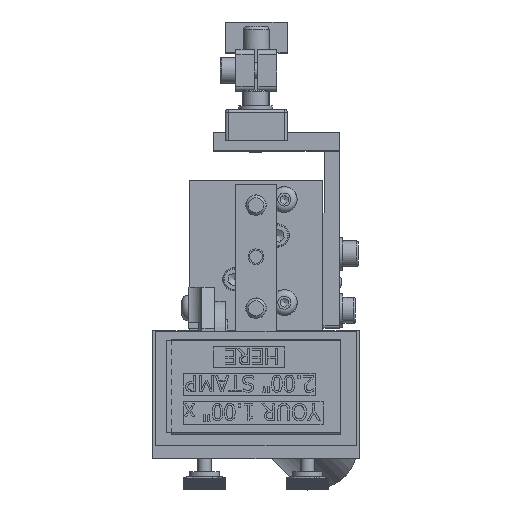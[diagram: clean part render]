
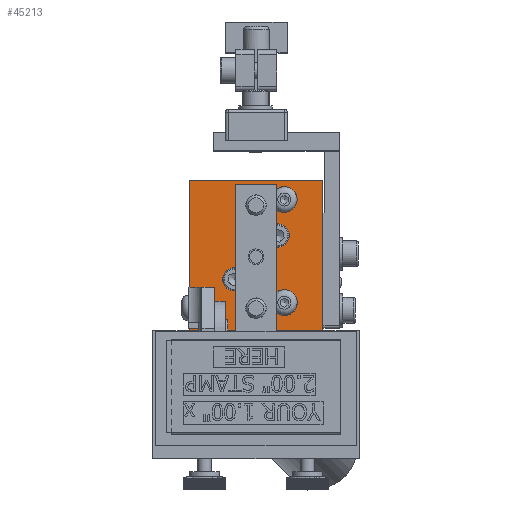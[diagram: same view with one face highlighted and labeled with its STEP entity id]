
A CAD part, top view. The second image highlights one B-rep face of the part: STEP entity #45213.
In plain terms, the highlighted planar face has unit normal (0, 0, 1).
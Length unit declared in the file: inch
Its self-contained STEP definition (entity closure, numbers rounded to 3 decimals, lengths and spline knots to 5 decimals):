
#44794=CARTESIAN_POINT('',(-0.05956,1.53255,1.5));
#44795=VERTEX_POINT('',#44794);
#44796=CARTESIAN_POINT('',(-0.24168,1.27969,1.5));
#44797=VERTEX_POINT('',#44796);
#44798=CARTESIAN_POINT('',(-0.14442,1.40165,1.5));
#44799=DIRECTION('',(0.,0.,-1.0));
#44800=DIRECTION('',(0.544,0.839,0.));
#44801=AXIS2_PLACEMENT_3D('',#44798,#44799,#44800);
#44802=CIRCLE('',#44801,0.156);
#44803=EDGE_CURVE('',#44795,#44797,#44802,.T.);
#44805=CARTESIAN_POINT('',(-0.2841,1.47112,1.5));
#44806=VERTEX_POINT('',#44805);
#44807=CARTESIAN_POINT('',(-0.14442,1.40165,1.5));
#44808=DIRECTION('',(0.,0.,-1.0));
#44809=DIRECTION('',(0.544,0.839,0.));
#44810=AXIS2_PLACEMENT_3D('',#44807,#44808,#44809);
#44811=CIRCLE('',#44810,0.156);
#44812=EDGE_CURVE('',#44806,#44795,#44811,.T.);
#45027=CARTESIAN_POINT('',(-0.48742,1.06209,1.5));
#45028=DIRECTION('',(0.0,0.0,1.0));
#45029=DIRECTION('',(1.0,0.0,0.0));
#45030=AXIS2_PLACEMENT_3D('',#45027,#45028,#45029);
#45031=PLANE('',#45030);
#45032=CARTESIAN_POINT('',(-0.98842,1.16265,1.5));
#45033=VERTEX_POINT('',#45032);
#45034=CARTESIAN_POINT('',(-1.17542,1.16265,1.5));
#45035=VERTEX_POINT('',#45034);
#45036=CARTESIAN_POINT('',(-0.98842,1.16265,1.5));
#45037=DIRECTION('',(-1.0,0.0,0.0));
#45038=VECTOR('',#45037,0.187);
#45039=LINE('',#45036,#45038);
#45040=EDGE_CURVE('',#45033,#45035,#45039,.T.);
#45041=ORIENTED_EDGE('',*,*,#45040,.T.);
#45042=CARTESIAN_POINT('',(-1.17542,1.08765,1.5));
#45043=VERTEX_POINT('',#45042);
#45044=CARTESIAN_POINT('',(-1.17542,1.16265,1.5));
#45045=DIRECTION('',(0.0,-1.0,0.0));
#45046=VECTOR('',#45045,0.075);
#45047=LINE('',#45044,#45046);
#45048=EDGE_CURVE('',#45035,#45043,#45047,.T.);
#45049=ORIENTED_EDGE('',*,*,#45048,.T.);
#45050=CARTESIAN_POINT('',(-1.29942,1.08765,1.5));
#45051=VERTEX_POINT('',#45050);
#45052=CARTESIAN_POINT('',(-1.17542,1.08765,1.5));
#45053=DIRECTION('',(-1.0,0.0,0.0));
#45054=VECTOR('',#45053,0.124);
#45055=LINE('',#45052,#45054);
#45056=EDGE_CURVE('',#45043,#45051,#45055,.T.);
#45057=ORIENTED_EDGE('',*,*,#45056,.T.);
#45058=CARTESIAN_POINT('',(-1.29942,1.06065,1.5));
#45059=VERTEX_POINT('',#45058);
#45060=CARTESIAN_POINT('',(-1.29942,1.06065,1.5));
#45061=DIRECTION('',(0.0,1.0,0.0));
#45062=VECTOR('',#45061,0.027);
#45063=LINE('',#45060,#45062);
#45064=EDGE_CURVE('',#45059,#45051,#45063,.T.);
#45065=ORIENTED_EDGE('',*,*,#45064,.F.);
#45066=CARTESIAN_POINT('',(0.32458,1.06065,1.5));
#45067=VERTEX_POINT('',#45066);
#45068=CARTESIAN_POINT('',(-1.29942,1.06065,1.5));
#45069=DIRECTION('',(1.0,0.0,0.0));
#45070=VECTOR('',#45069,1.624);
#45071=LINE('',#45068,#45070);
#45072=EDGE_CURVE('',#45059,#45067,#45071,.T.);
#45073=ORIENTED_EDGE('',*,*,#45072,.T.);
#45074=CARTESIAN_POINT('',(0.32458,2.88565,1.5));
#45075=VERTEX_POINT('',#45074);
#45076=CARTESIAN_POINT('',(0.32458,2.88565,1.5));
#45077=DIRECTION('',(0.0,-1.0,0.0));
#45078=VECTOR('',#45077,1.825);
#45079=LINE('',#45076,#45078);
#45080=EDGE_CURVE('',#45075,#45067,#45079,.T.);
#45081=ORIENTED_EDGE('',*,*,#45080,.F.);
#45082=CARTESIAN_POINT('',(-1.29942,2.88565,1.5));
#45083=VERTEX_POINT('',#45082);
#45084=CARTESIAN_POINT('',(-1.29942,2.88565,1.5));
#45085=DIRECTION('',(1.0,0.0,0.0));
#45086=VECTOR('',#45085,1.624);
#45087=LINE('',#45084,#45086);
#45088=EDGE_CURVE('',#45083,#45075,#45087,.T.);
#45089=ORIENTED_EDGE('',*,*,#45088,.F.);
#45090=CARTESIAN_POINT('',(-1.29942,1.58765,1.5));
#45091=VERTEX_POINT('',#45090);
#45092=CARTESIAN_POINT('',(-1.29942,1.58765,1.5));
#45093=DIRECTION('',(0.0,1.0,0.0));
#45094=VECTOR('',#45093,1.298);
#45095=LINE('',#45092,#45094);
#45096=EDGE_CURVE('',#45091,#45083,#45095,.T.);
#45097=ORIENTED_EDGE('',*,*,#45096,.F.);
#45098=CARTESIAN_POINT('',(-1.17542,1.58765,1.5));
#45099=VERTEX_POINT('',#45098);
#45100=CARTESIAN_POINT('',(-1.29942,1.58765,1.5));
#45101=DIRECTION('',(1.0,0.0,0.0));
#45102=VECTOR('',#45101,0.124);
#45103=LINE('',#45100,#45102);
#45104=EDGE_CURVE('',#45091,#45099,#45103,.T.);
#45105=ORIENTED_EDGE('',*,*,#45104,.T.);
#45106=CARTESIAN_POINT('',(-0.98842,1.58765,1.5));
#45107=VERTEX_POINT('',#45106);
#45108=CARTESIAN_POINT('',(-1.17542,1.58765,1.5));
#45109=DIRECTION('',(1.0,0.0,0.0));
#45110=VECTOR('',#45109,0.187);
#45111=LINE('',#45108,#45110);
#45112=EDGE_CURVE('',#45099,#45107,#45111,.T.);
#45113=ORIENTED_EDGE('',*,*,#45112,.T.);
#45114=CARTESIAN_POINT('',(-0.98842,1.58765,1.5));
#45115=DIRECTION('',(0.0,-1.0,0.0));
#45116=VECTOR('',#45115,0.425);
#45117=LINE('',#45114,#45116);
#45118=EDGE_CURVE('',#45107,#45033,#45117,.T.);
#45119=ORIENTED_EDGE('',*,*,#45118,.T.);
#45120=EDGE_LOOP('',(#45041,#45049,#45057,#45065,#45073,#45081,#45089,#45097,#45105,#45113,#45119));
#45121=FACE_OUTER_BOUND('',#45120,.T.);
#45122=CARTESIAN_POINT('',(-0.08142,2.21565,1.5));
#45123=VERTEX_POINT('',#45122);
#45124=CARTESIAN_POINT('',(-0.22242,2.21565,1.5));
#45125=DIRECTION('',(0.0,0.0,-1.0));
#45126=DIRECTION('',(1.0,0.0,0.0));
#45127=AXIS2_PLACEMENT_3D('',#45124,#45125,#45126);
#45128=CIRCLE('',#45127,0.141);
#45129=EDGE_CURVE('',#45123,#45123,#45128,.T.);
#45130=ORIENTED_EDGE('',*,*,#45129,.T.);
#45131=EDGE_LOOP('',(#45130));
#45132=FACE_BOUND('',#45131,.T.);
#45133=CARTESIAN_POINT('',(-0.61142,1.68565,1.5));
#45134=VERTEX_POINT('',#45133);
#45135=CARTESIAN_POINT('',(-0.75242,1.68565,1.5));
#45136=DIRECTION('',(0.0,0.0,-1.0));
#45137=DIRECTION('',(1.0,0.0,0.0));
#45138=AXIS2_PLACEMENT_3D('',#45135,#45136,#45137);
#45139=CIRCLE('',#45138,0.141);
#45140=EDGE_CURVE('',#45134,#45134,#45139,.T.);
#45141=ORIENTED_EDGE('',*,*,#45140,.T.);
#45142=EDGE_LOOP('',(#45141));
#45143=FACE_BOUND('',#45142,.T.);
#45144=CARTESIAN_POINT('',(-0.2841,2.72112,1.5));
#45145=VERTEX_POINT('',#45144);
#45146=CARTESIAN_POINT('',(-0.06795,2.78763,1.5));
#45147=VERTEX_POINT('',#45146);
#45148=CARTESIAN_POINT('',(-0.14442,2.65165,1.5));
#45149=DIRECTION('',(0.,0.,-1.));
#45150=DIRECTION('',(0.49,0.872,0.));
#45151=AXIS2_PLACEMENT_3D('',#45148,#45149,#45150);
#45152=CIRCLE('',#45151,0.156);
#45153=EDGE_CURVE('',#45145,#45147,#45152,.T.);
#45154=ORIENTED_EDGE('',*,*,#45153,.T.);
#45155=CARTESIAN_POINT('',(-0.24168,2.52969,1.5));
#45156=VERTEX_POINT('',#45155);
#45157=CARTESIAN_POINT('',(-0.14442,2.65165,1.5));
#45158=DIRECTION('',(0.,0.,-1.));
#45159=DIRECTION('',(0.49,0.872,0.));
#45160=AXIS2_PLACEMENT_3D('',#45157,#45158,#45159);
#45161=CIRCLE('',#45160,0.156);
#45162=EDGE_CURVE('',#45147,#45156,#45161,.T.);
#45163=ORIENTED_EDGE('',*,*,#45162,.T.);
#45164=CARTESIAN_POINT('',(-0.48742,2.82565,1.5));
#45165=VERTEX_POINT('',#45164);
#45166=CARTESIAN_POINT('',(-0.48742,2.57565,1.5));
#45167=DIRECTION('',(0.0,0.0,-1.0));
#45168=DIRECTION('',(-1.0,0.0,0.0));
#45169=AXIS2_PLACEMENT_3D('',#45166,#45167,#45168);
#45170=CIRCLE('',#45169,0.25);
#45171=EDGE_CURVE('',#45156,#45165,#45170,.T.);
#45172=ORIENTED_EDGE('',*,*,#45171,.T.);
#45173=CARTESIAN_POINT('',(-0.48742,2.57565,1.5));
#45174=DIRECTION('',(0.0,0.0,-1.0));
#45175=DIRECTION('',(-1.0,0.0,0.0));
#45176=AXIS2_PLACEMENT_3D('',#45173,#45174,#45175);
#45177=CIRCLE('',#45176,0.25);
#45178=EDGE_CURVE('',#45165,#45145,#45177,.T.);
#45179=ORIENTED_EDGE('',*,*,#45178,.T.);
#45180=EDGE_LOOP('',(#45154,#45163,#45172,#45179));
#45181=FACE_BOUND('',#45180,.T.);
#45182=ORIENTED_EDGE('',*,*,#44812,.T.);
#45183=ORIENTED_EDGE('',*,*,#44803,.T.);
#45184=CARTESIAN_POINT('',(-0.48742,1.57565,1.5));
#45185=VERTEX_POINT('',#45184);
#45186=CARTESIAN_POINT('',(-0.48742,1.32565,1.5));
#45187=DIRECTION('',(0.0,0.0,-1.0));
#45188=DIRECTION('',(-1.0,0.0,0.0));
#45189=AXIS2_PLACEMENT_3D('',#45186,#45187,#45188);
#45190=CIRCLE('',#45189,0.25);
#45191=EDGE_CURVE('',#44797,#45185,#45190,.T.);
#45192=ORIENTED_EDGE('',*,*,#45191,.T.);
#45193=CARTESIAN_POINT('',(-0.48742,1.32565,1.5));
#45194=DIRECTION('',(0.0,0.0,-1.0));
#45195=DIRECTION('',(-1.0,0.0,0.0));
#45196=AXIS2_PLACEMENT_3D('',#45193,#45194,#45195);
#45197=CIRCLE('',#45196,0.25);
#45198=EDGE_CURVE('',#45185,#44806,#45197,.T.);
#45199=ORIENTED_EDGE('',*,*,#45198,.T.);
#45200=EDGE_LOOP('',(#45182,#45183,#45192,#45199));
#45201=FACE_BOUND('',#45200,.T.);
#45202=CARTESIAN_POINT('',(-0.37805,1.95065,1.5));
#45203=VERTEX_POINT('',#45202);
#45204=CARTESIAN_POINT('',(-0.48742,1.95065,1.5));
#45205=DIRECTION('',(0.0,0.0,-1.0));
#45206=DIRECTION('',(-1.0,0.0,0.0));
#45207=AXIS2_PLACEMENT_3D('',#45204,#45205,#45206);
#45208=CIRCLE('',#45207,0.10938);
#45209=EDGE_CURVE('',#45203,#45203,#45208,.T.);
#45210=ORIENTED_EDGE('',*,*,#45209,.T.);
#45211=EDGE_LOOP('',(#45210));
#45212=FACE_BOUND('',#45211,.T.);
#45213=ADVANCED_FACE('',(#45121,#45132,#45143,#45181,#45201,#45212),#45031,.T.);
